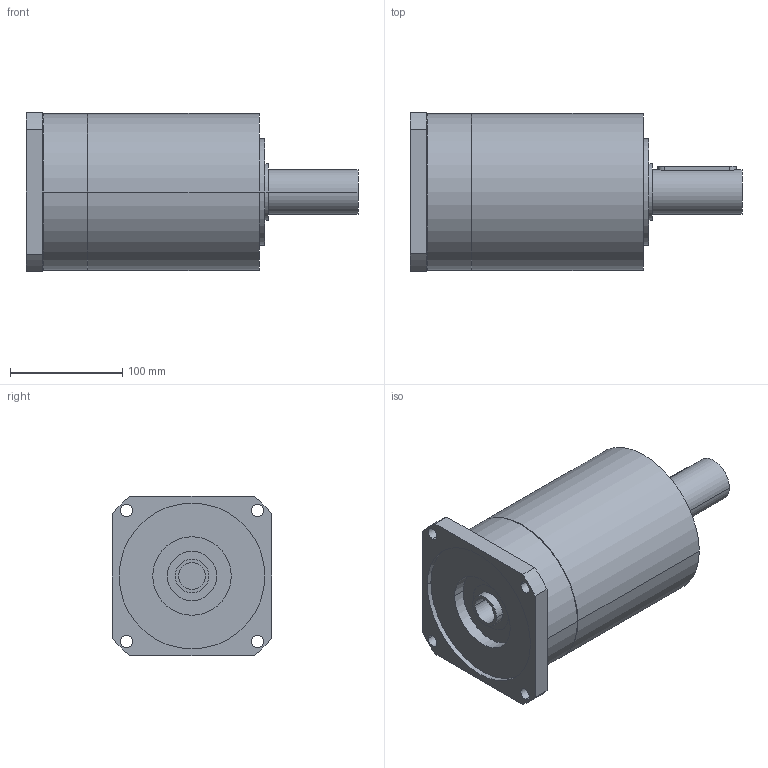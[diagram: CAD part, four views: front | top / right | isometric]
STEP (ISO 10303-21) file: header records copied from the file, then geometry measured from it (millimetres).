
FILE_DESCRIPTION(('CoCreate Modeling STEP Export'),'2;1');
FILE_NAME('GPR150_ig-9-12-16-20-28-35_40_B14_24_P05.stp','2014-08-19T17:03:31',(''),(''),'CoCreate Modeling STEP processor for AP214 (Solid Model)','CoCreate Modeling 16.00C 25-Feb-2009 (C) Parametric Technology GmbH','');
FILE_SCHEMA(('AUTOMOTIVE_DESIGN { 1 0 10303 214 1 1 1 1 }'));
Length unit declared in the file: millimetre
Products named in the file (2): GPR150_ig-9-12-16-20-28-35_40_B14_24_P05
Assembly tree (1 placements, depth 2):
  GPR150_ig-9-12-16-20-28-35_40_B14_24_P05
    GPR150_ig-9-12-16-20-28-35_40_B14_24_P05
Bounding box: 296 x 142 x 142 mm (x, y, z)
Volume: 3272514.9 mm3; surface area: 160489.4 mm2
Topology: 1 solids, 1 shells, 73 faces, 195 edges, 137 vertices
Faces by surface type: cylinder 44, plane 23, cone 6
Entity records: 2038 total; most frequent: CARTESIAN_POINT 396, ORIENTED_EDGE 386, DIRECTION 274, EDGE_CURVE 193, VERTEX_POINT 137, AXIS2_PLACEMENT_3D 103, EDGE_LOOP 96, FACE_OUTER_BOUND 73
